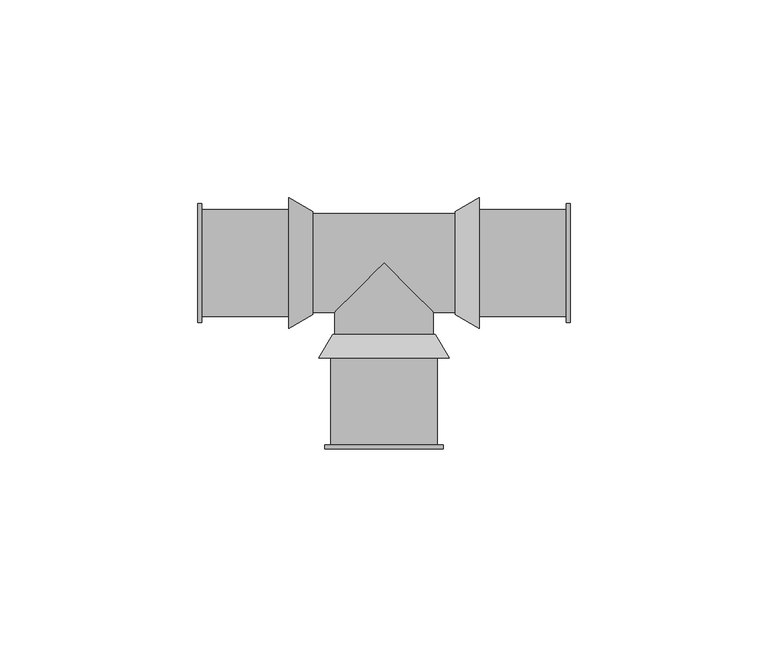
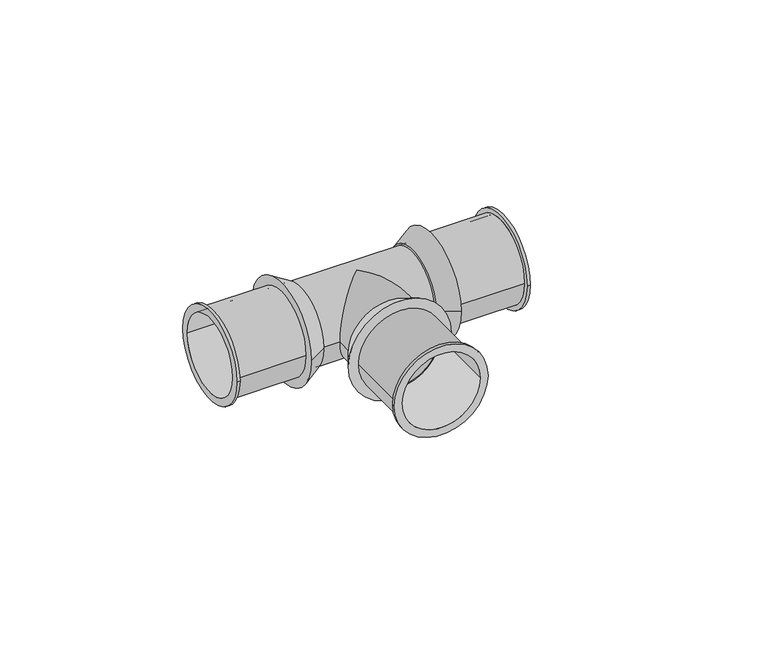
"""IFC4 building model written with IfcOpenShell, lengths in millimetres: pipe fitting geometry, SuperPipe_Tee_SPressPlus : SuperPipe_Tee_SPressPlus."""

from ifc_helpers import new_model, si_unit, point, frame, origin, origin_2d, place, context, project, spatial, polyline, circle_curve, ellipse_curve, trimmed, segment, composite_curve, outline, extrude, source, transform, mapped, element, save
from ifc_brep_helpers import plane_surface, cylinder_surface, revolved_surface, advanced_brep


def pipe_fitting_b1de520c(model_context):
    return source(origin(), model_context, "Body", "SolidModel", [
        advanced_brep(
        [(-47.0, -15.0, 0.0), (-47.0, 15.0, 0.0), (-47.0, -12.5, 0.0), (-47.0, 12.5, 0.0), (-24.0, -13.5, 0.0), (-24.0, 13.5, 0.0), (-24.0, -12.5, 0.0), (-24.0, 12.5, 0.0), (-46.0, -12.5, 0.0), (-46.0, 12.5, 0.0), (-46.0, 13.5, 0.0), (-46.0, -13.5, 0.0), (-46.0, -15.0, 0.0), (-46.0, 15.0, 0.0)],
        [
            (0, 1, circle_curve(frame((-47.0, 0.0, 0.0), z_axis=(-1.0, 0.0, 0.0), x_axis=(0.0, 1.0, 0.0)), 15.0)),
            (1, 0, circle_curve(frame((-47.0, 0.0, 0.0), z_axis=(-1.0, 0.0, 0.0), x_axis=(0.0, 1.0, 0.0)), 15.0)),
            (2, 3, circle_curve(frame((-47.0, 0.0, 0.0), z_axis=(1.0, 0.0, 0.0), x_axis=(0.0, 1.0, 0.0)), 12.5)),
            (3, 2, circle_curve(frame((-47.0, 0.0, 0.0), z_axis=(1.0, 0.0, 0.0), x_axis=(0.0, 1.0, 0.0)), 12.5)),
            (4, 5, circle_curve(frame((-24.0, 0.0, 0.0), z_axis=(1.0, 0.0, 0.0), x_axis=(0.0, 1.0, 0.0)), 13.5)),
            (5, 4, circle_curve(frame((-24.0, 0.0, 0.0), z_axis=(1.0, 0.0, 0.0), x_axis=(0.0, 1.0, 0.0)), 13.5)),
            (6, 7, circle_curve(frame((-24.0, 0.0, 0.0), z_axis=(-1.0, 0.0, 0.0), x_axis=(0.0, 1.0, 0.0)), 12.5)),
            (7, 6, circle_curve(frame((-24.0, 0.0, 0.0), z_axis=(-1.0, 0.0, 0.0), x_axis=(0.0, 1.0, 0.0)), 12.5)),
            (2, 8),
            (8, 6),
            (7, 9),
            (9, 3),
            (5, 10),
            (10, 11, circle_curve(frame((-46.0, 0.0, 0.0), z_axis=(1.0, 0.0, 0.0), x_axis=(0.0, 1.0, 0.0)), 13.5)),
            (11, 4),
            (11, 10, circle_curve(frame((-46.0, 0.0, 0.0), z_axis=(1.0, 0.0, 0.0), x_axis=(0.0, 1.0, 0.0)), 13.5)),
            (12, 13, circle_curve(frame((-46.0, 0.0, 0.0), z_axis=(1.0, 0.0, 0.0), x_axis=(0.0, 1.0, 0.0)), 15.0)),
            (13, 12, circle_curve(frame((-46.0, 0.0, 0.0), z_axis=(1.0, 0.0, 0.0), x_axis=(0.0, 1.0, 0.0)), 15.0)),
            (0, 12),
            (13, 1),
        ],
        [
            plane_surface(frame((-47.0, 0.0, 0.0), z_axis=(-1.0, 0.0, 0.0), x_axis=(0.0, 0.0, 1.0))),
            plane_surface(frame((-24.0, 0.0, 0.0), z_axis=(1.0, 0.0, 0.0), x_axis=(0.0, 0.0, 1.0))),
            revolved_surface(polyline([(-24.0, 12.5, 0.0), (-47.0, 12.5, 0.0)]), (-47.0, 0.0, 0.0), (1.0, 0.0, 0.0)),
            cylinder_surface(frame((-47.0, 0.0, 0.0), z_axis=(-1.0, 0.0, 0.0), x_axis=(0.0, 1.0, 0.0)), 13.5),
            plane_surface(frame((-46.0, 0.0, 0.0), z_axis=(1.0, 0.0, 0.0), x_axis=(0.0, 0.0, 1.0))),
            cylinder_surface(frame((-47.0, 0.0, 0.0), z_axis=(-1.0, 0.0, 0.0), x_axis=(0.0, 1.0, 0.0)), 15.0),
        ],
        [
            (0, [[1, 2], [3, 4]]),
            (1, [[5, 6], [7, 8]]),
            (2, [[-3, 9, 10, -8, 11, 12]]),
            (2, [[-4, -12, -11, -7, -10, -9]]),
            (3, [[-6, 13, 14, 15]]),
            (3, [[-5, -15, 16, -13]]),
            (4, [[17, 18], [-14, -16]]),
            (5, [[-1, 19, -18, 20]]),
            (5, [[-2, -20, -17, -19]]),
        ],
    ),
        advanced_brep(
        [(24.0, -13.5, 0.0), (24.0, 13.5, 0.0), (24.0, -12.5, 0.0), (24.0, 12.5, 0.0), (47.0, -15.0, 0.0), (47.0, 15.0, 0.0), (47.0, -12.5, 0.0), (47.0, 12.5, 0.0), (46.0, -13.5, 0.0), (46.0, 13.5, 0.0), (46.0, -12.5, 0.0), (46.0, 12.5, 0.0), (46.0, -15.0, 0.0), (46.0, 15.0, 0.0)],
        [
            (0, 1, circle_curve(frame((24.0, 0.0, 0.0), z_axis=(-1.0, 0.0, 0.0), x_axis=(0.0, 1.0, 0.0)), 13.5)),
            (1, 0, circle_curve(frame((24.0, 0.0, 0.0), z_axis=(-1.0, 0.0, 0.0), x_axis=(0.0, 1.0, 0.0)), 13.5)),
            (2, 3, circle_curve(frame((24.0, 0.0, 0.0), z_axis=(1.0, 0.0, 0.0), x_axis=(0.0, 1.0, 0.0)), 12.5)),
            (3, 2, circle_curve(frame((24.0, 0.0, 0.0), z_axis=(1.0, 0.0, 0.0), x_axis=(0.0, 1.0, 0.0)), 12.5)),
            (4, 5, circle_curve(frame((47.0, 0.0, 0.0), z_axis=(1.0, 0.0, 0.0), x_axis=(0.0, 1.0, 0.0)), 15.0)),
            (5, 4, circle_curve(frame((47.0, 0.0, 0.0), z_axis=(1.0, 0.0, 0.0), x_axis=(0.0, 1.0, 0.0)), 15.0)),
            (6, 7, circle_curve(frame((47.0, 0.0, 0.0), z_axis=(-1.0, 0.0, 0.0), x_axis=(0.0, 1.0, 0.0)), 12.5)),
            (7, 6, circle_curve(frame((47.0, 0.0, 0.0), z_axis=(-1.0, 0.0, 0.0), x_axis=(0.0, 1.0, 0.0)), 12.5)),
            (0, 8),
            (8, 9, circle_curve(frame((46.0, 0.0, 0.0), z_axis=(-1.0, 0.0, 0.0), x_axis=(0.0, 1.0, 0.0)), 13.5)),
            (9, 1),
            (9, 8, circle_curve(frame((46.0, 0.0, 0.0), z_axis=(-1.0, 0.0, 0.0), x_axis=(0.0, 1.0, 0.0)), 13.5)),
            (2, 10),
            (10, 6),
            (7, 11),
            (11, 3),
            (12, 13, circle_curve(frame((46.0, 0.0, 0.0), z_axis=(-1.0, 0.0, 0.0), x_axis=(0.0, 1.0, 0.0)), 15.0)),
            (13, 12, circle_curve(frame((46.0, 0.0, 0.0), z_axis=(-1.0, 0.0, 0.0), x_axis=(0.0, 1.0, 0.0)), 15.0)),
            (12, 4),
            (5, 13),
        ],
        [
            plane_surface(frame((24.0, 0.0, 0.0), z_axis=(-1.0, 0.0, 0.0), x_axis=(0.0, 0.0, 1.0))),
            plane_surface(frame((47.0, 0.0, 0.0), z_axis=(1.0, 0.0, 0.0), x_axis=(0.0, 0.0, 1.0))),
            cylinder_surface(frame((24.0, 0.0, 0.0), z_axis=(-1.0, 0.0, 0.0), x_axis=(0.0, 1.0, 0.0)), 13.5),
            revolved_surface(polyline([(47.0, 12.5, 0.0), (24.0, 12.5, 0.0)]), (24.0, 0.0, 0.0), (1.0, 0.0, 0.0)),
            plane_surface(frame((46.0, 0.0, 0.0), z_axis=(-1.0, 0.0, 0.0), x_axis=(0.0, 0.0, 1.0))),
            cylinder_surface(frame((46.0, 0.0, 0.0), z_axis=(-1.0, 0.0, 0.0), x_axis=(0.0, 1.0, 0.0)), 15.0),
        ],
        [
            (0, [[1, 2], [3, 4]]),
            (1, [[5, 6], [7, 8]]),
            (2, [[-1, 9, 10, 11]]),
            (2, [[-2, -11, 12, -9]]),
            (3, [[-3, 13, 14, -8, 15, 16]]),
            (3, [[-4, -16, -15, -7, -14, -13]]),
            (4, [[17, 18], [-10, -12]]),
            (5, [[-17, 19, -6, 20]]),
            (5, [[-18, -20, -5, -19]]),
        ],
    ),
        advanced_brep(
        [(-16.5, -24.0, 0.0), (16.5, -24.0, 0.0), (-12.5, -24.0, 0.0), (12.5, -24.0, 0.0), (-13.0, -18.0, 0.0), (13.0, -18.0, 0.0), (-12.5, -19.0, 0.0), (12.5, -19.0, 0.0)],
        [
            (0, 1, circle_curve(frame((0.0, -24.0, 0.0), z_axis=(0.0, -1.0, 0.0), x_axis=(-1.0, 0.0, 0.0)), 16.5)),
            (1, 0, circle_curve(frame((0.0, -24.0, 0.0), z_axis=(0.0, -1.0, 0.0), x_axis=(1.0, 0.0, 0.0)), 16.5)),
            (2, 3, circle_curve(frame((0.0, -24.0, 0.0), z_axis=(0.0, 1.0, 0.0), x_axis=(1.0, 0.0, 0.0)), 12.5)),
            (3, 2, circle_curve(frame((0.0, -24.0, 0.0), z_axis=(0.0, 1.0, 0.0), x_axis=(1.0, 0.0, 0.0)), 12.5)),
            (4, 5, circle_curve(frame((0.0, -18.0, 0.0), z_axis=(0.0, 1.0, 0.0), x_axis=(1.0, 0.0, 0.0)), 13.0)),
            (5, 4, circle_curve(frame((0.0, -18.0, 0.0), z_axis=(0.0, 1.0, 0.0), x_axis=(-1.0, 0.0, 0.0)), 13.0)),
            (0, 4),
            (5, 1),
            (6, 7, circle_curve(frame((0.0, -19.0, 0.0), z_axis=(0.0, -1.0, 0.0), x_axis=(1.0, 0.0, 0.0)), 12.5)),
            (7, 6, circle_curve(frame((0.0, -19.0, 0.0), z_axis=(0.0, -1.0, 0.0), x_axis=(1.0, 0.0, 0.0)), 12.5)),
            (7, 3),
            (2, 6),
        ],
        [
            plane_surface(frame((0.0, -24.0, 0.0), z_axis=(0.0, -1.0, 0.0), x_axis=(0.0, 0.0, -1.0))),
            plane_surface(frame((0.0, -18.0, 0.0), z_axis=(0.0, 1.0, 0.0), x_axis=(0.0, 0.0, -1.0))),
            revolved_surface(polyline([(13.000000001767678, -18.0, 0.0), (16.5, -24.0, 0.0)]), (0.0, 4.2857143, 0.0), (0.0, -1.0, 0.0)),
            revolved_surface(polyline([(-13.000000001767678, -18.0, 0.0), (-16.5, -24.0, 0.0)]), (0.0, 4.2857143, 0.0), (0.0, -1.0, 0.0)),
            plane_surface(frame((0.0, -19.0, 0.0), z_axis=(0.0, -1.0, 0.0), x_axis=(0.0, 0.0, 1.0))),
            revolved_surface(polyline([(12.5, -19.0, 0.0), (12.5, -24.0, 0.0)]), (0.0, -19.0, 0.0), (0.0, 1.0, 0.0)),
        ],
        [
            (0, [[1, 2], [3, 4]]),
            (1, [[5, 6]]),
            (2, [[-1, 7, -6, 8]]),
            (3, [[-2, -8, -5, -7]]),
            (4, [[9, 10]]),
            (5, [[-10, 11, -3, 12]]),
            (5, [[-9, -12, -4, -11]]),
        ],
    ),
        advanced_brep(
        [(24.0, -16.5, 0.0), (24.0, 16.5, 0.0), (24.0, 12.5, 0.0), (24.0, -12.5, 0.0), (18.0, -13.0, 0.0), (18.0, 13.0, 0.0), (19.0, -12.5, 0.0), (19.0, 12.5, 0.0)],
        [
            (0, 1, circle_curve(frame((24.0, 0.0, 0.0), z_axis=(1.0, 0.0, 0.0), x_axis=(0.0, -1.0, 0.0)), 16.5)),
            (1, 0, circle_curve(frame((24.0, 0.0, 0.0), z_axis=(1.0, 0.0, 0.0), x_axis=(0.0, 1.0, 0.0)), 16.5)),
            (2, 3, circle_curve(frame((24.0, 0.0, 0.0), z_axis=(-1.0, 0.0, 0.0), x_axis=(0.0, 1.0, 0.0)), 12.5)),
            (3, 2, circle_curve(frame((24.0, 0.0, 0.0), z_axis=(-1.0, 0.0, 0.0), x_axis=(0.0, 1.0, 0.0)), 12.5)),
            (4, 5, circle_curve(frame((18.0, 0.0, 0.0), z_axis=(-1.0, 0.0, 0.0), x_axis=(0.0, 1.0, 0.0)), 13.0)),
            (5, 4, circle_curve(frame((18.0, 0.0, 0.0), z_axis=(-1.0, 0.0, 0.0), x_axis=(0.0, -1.0, 0.0)), 13.0)),
            (0, 4),
            (5, 1),
            (6, 7, circle_curve(frame((19.0, 0.0, 0.0), z_axis=(1.0, 0.0, 0.0), x_axis=(0.0, 1.0, 0.0)), 12.5)),
            (7, 6, circle_curve(frame((19.0, 0.0, 0.0), z_axis=(1.0, 0.0, 0.0), x_axis=(0.0, 1.0, 0.0)), 12.5)),
            (6, 3),
            (2, 7),
        ],
        [
            plane_surface(frame((24.0, 0.0, 0.0), z_axis=(1.0, 0.0, 0.0), x_axis=(0.0, 0.0, -1.0))),
            plane_surface(frame((18.0, 0.0, 0.0), z_axis=(-1.0, 0.0, 0.0), x_axis=(0.0, 0.0, -1.0))),
            revolved_surface(polyline([(18.0, 13.000000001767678, 0.0), (24.0, 16.5, 0.0)]), (-4.2857143, 0.0, 0.0), (1.0, 0.0, 0.0)),
            revolved_surface(polyline([(18.0, -13.000000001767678, 0.0), (24.0, -16.5, 0.0)]), (-4.2857143, 0.0, 0.0), (1.0, 0.0, 0.0)),
            plane_surface(frame((19.0, 12.5, 0.0), z_axis=(1.0, 0.0, 0.0), x_axis=(0.0, 0.0, -1.0))),
            revolved_surface(polyline([(24.0, 12.5, 0.0), (19.0, 12.5, 0.0)]), (19.0, 0.0, 0.0), (1.0, 0.0, 0.0)),
        ],
        [
            (0, [[1, 2], [3, 4]]),
            (1, [[5, 6]]),
            (2, [[-1, 7, -6, 8]]),
            (3, [[-2, -8, -5, -7]]),
            (4, [[9, 10]]),
            (5, [[-9, 11, -3, 12]]),
            (5, [[-10, -12, -4, -11]]),
        ],
    ),
        advanced_brep(
        [(-18.0, -13.0, 0.0), (-18.0, 13.0, 0.0), (-24.0, -16.5, 0.0), (-24.0, 16.5, 0.0), (-24.0, -12.5, 0.0), (-24.0, 12.5, 0.0), (-19.0, -12.5, 0.0), (-19.0, 12.5, 0.0)],
        [
            (0, 1, circle_curve(frame((-18.0, 0.0, 0.0), z_axis=(1.0, 0.0, 0.0), x_axis=(0.0, -1.0, 0.0)), 13.0)),
            (1, 0, circle_curve(frame((-18.0, 0.0, 0.0), z_axis=(1.0, 0.0, 0.0), x_axis=(0.0, 1.0, 0.0)), 13.0)),
            (2, 3, circle_curve(frame((-24.0, 0.0, 0.0), z_axis=(-1.0, 0.0, 0.0), x_axis=(0.0, 1.0, 0.0)), 16.5)),
            (3, 2, circle_curve(frame((-24.0, 0.0, 0.0), z_axis=(-1.0, 0.0, 0.0), x_axis=(0.0, -1.0, 0.0)), 16.5)),
            (4, 5, circle_curve(frame((-24.0, 0.0, 0.0), z_axis=(1.0, 0.0, 0.0), x_axis=(0.0, 1.0, 0.0)), 12.5)),
            (5, 4, circle_curve(frame((-24.0, 0.0, 0.0), z_axis=(1.0, 0.0, 0.0), x_axis=(0.0, 1.0, 0.0)), 12.5)),
            (0, 2),
            (3, 1),
            (6, 7, circle_curve(frame((-19.0, 0.0, 0.0), z_axis=(-1.0, 0.0, 0.0), x_axis=(0.0, 1.0, 0.0)), 12.5)),
            (7, 6, circle_curve(frame((-19.0, 0.0, 0.0), z_axis=(-1.0, 0.0, 0.0), x_axis=(0.0, 1.0, 0.0)), 12.5)),
            (7, 5),
            (4, 6),
        ],
        [
            plane_surface(frame((-18.0, 0.0, 0.0), z_axis=(1.0, 0.0, 0.0), x_axis=(0.0, 0.0, -1.0))),
            plane_surface(frame((-24.0, 0.0, 0.0), z_axis=(-1.0, 0.0, 0.0), x_axis=(0.0, 0.0, -1.0))),
            revolved_surface(polyline([(-18.0, -13.000000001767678, 0.0), (-24.0, -16.5, 0.0)]), (4.2857143, 0.0, 0.0), (-1.0, 0.0, 0.0)),
            revolved_surface(polyline([(-18.0, 13.000000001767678, 0.0), (-24.0, 16.5, 0.0)]), (4.2857143, 0.0, 0.0), (-1.0, 0.0, 0.0)),
            plane_surface(frame((-19.0, 12.5, 0.0), z_axis=(-1.0, 0.0, 0.0), x_axis=(0.0, 0.0, 1.0))),
            revolved_surface(polyline([(-19.0, 12.5, 0.0), (-24.0, 12.5, 0.0)]), (-24.0, 0.0, 0.0), (1.0, 0.0, 0.0)),
        ],
        [
            (0, [[1, 2]]),
            (1, [[3, 4], [5, 6]]),
            (2, [[-1, 7, -4, 8]]),
            (3, [[-2, -8, -3, -7]]),
            (4, [[9, 10]]),
            (5, [[-10, 11, -5, 12]]),
            (5, [[-9, -12, -6, -11]]),
        ],
    ),
        advanced_brep(
        [(-12.5, -18.0, 0.0), (12.5, -18.0, 0.0), (12.5, -12.5, 0.0), (0.0, 0.0, 12.5), (-12.5, -12.5, 0.0), (0.0, 0.0, -12.5)],
        [
            (0, 1, circle_curve(frame((0.0, -18.0, 0.0), z_axis=(0.0, -1.0, 0.0), x_axis=(1.0, 0.0, 0.0)), 12.5)),
            (1, 0, circle_curve(frame((0.0, -18.0, 0.0), z_axis=(0.0, -1.0, 0.0), x_axis=(1.0, 0.0, 0.0)), 12.5)),
            (1, 2),
            (2, 3, ellipse_curve(frame((0.0, 0.0, 0.0), z_axis=(-0.7071067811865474, -0.7071067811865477, 0.0), x_axis=(-0.7071067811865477, 0.7071067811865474, 0.0)), 17.6776695, 12.5)),
            (3, 4, ellipse_curve(frame((0.0, 0.0, 0.0), z_axis=(0.7071067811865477, -0.7071067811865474, 0.0), x_axis=(0.7071067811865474, 0.7071067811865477, 0.0)), 17.6776695, 12.5)),
            (4, 0),
            (4, 5, ellipse_curve(frame((0.0, 0.0, 0.0), z_axis=(0.7071067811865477, -0.7071067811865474, 0.0), x_axis=(0.7071067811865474, 0.7071067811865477, 0.0)), 17.6776695, 12.5)),
            (5, 2, ellipse_curve(frame((0.0, 0.0, 0.0), z_axis=(-0.7071067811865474, -0.7071067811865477, 0.0), x_axis=(-0.7071067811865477, 0.7071067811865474, 0.0)), 17.6776695, 12.5)),
            (2, 4),
        ],
        [
            plane_surface(frame((0.0, -18.0, 0.0), z_axis=(0.0, -1.0, 0.0), x_axis=(0.0, 0.0, 1.0))),
            cylinder_surface(frame((0.0, 0.0, 0.0), z_axis=(0.0, 1.0, 0.0), x_axis=(1.0, 0.0, 0.0)), 12.5),
            revolved_surface(polyline([(-12.5, 12.5, 0.0), (12.5, 12.5, 0.0)]), (-103.8358145, 0.0, 0.0), (-1.0, 0.0, 0.0)),
        ],
        [
            (0, [[1, 2]]),
            (1, [[-2, 3, 4, 5, 6]]),
            (1, [[-1, -6, 7, 8, -3]]),
            (2, [[9, -5, -4]]),
            (2, [[-9, -8, -7]]),
        ],
    ),
        advanced_brep(
        [(-13.5, -24.0, 0.0), (13.5, -24.0, 0.0), (-12.5, -24.0, 0.0), (12.5, -24.0, 0.0), (-15.0, -47.0, 0.0), (15.0, -47.0, 0.0), (-12.5, -47.0, 0.0), (12.5, -47.0, 0.0), (-13.5, -46.0, 0.0), (13.5, -46.0, 0.0), (-15.0, -46.0, 0.0), (15.0, -46.0, 0.0)],
        [
            (0, 1, circle_curve(frame((0.0, -24.0, 0.0), z_axis=(0.0, 1.0, 0.0), x_axis=(1.0, 0.0, 0.0)), 13.5)),
            (1, 0, circle_curve(frame((0.0, -24.0, 0.0), z_axis=(0.0, 1.0, 0.0), x_axis=(1.0, 0.0, 0.0)), 13.5)),
            (2, 3, circle_curve(frame((0.0, -24.0, 0.0), z_axis=(0.0, -1.0, 0.0), x_axis=(1.0, 0.0, 0.0)), 12.5)),
            (3, 2, circle_curve(frame((0.0, -24.0, 0.0), z_axis=(0.0, -1.0, 0.0), x_axis=(1.0, 0.0, 0.0)), 12.5)),
            (4, 5, circle_curve(frame((0.0, -47.0, 0.0), z_axis=(0.0, -1.0, 0.0), x_axis=(1.0, 0.0, 0.0)), 15.0)),
            (5, 4, circle_curve(frame((0.0, -47.0, 0.0), z_axis=(0.0, -1.0, 0.0), x_axis=(1.0, 0.0, 0.0)), 15.0)),
            (6, 7, circle_curve(frame((0.0, -47.0, 0.0), z_axis=(0.0, 1.0, 0.0), x_axis=(1.0, 0.0, 0.0)), 12.5)),
            (7, 6, circle_curve(frame((0.0, -47.0, 0.0), z_axis=(0.0, 1.0, 0.0), x_axis=(1.0, 0.0, 0.0)), 12.5)),
            (2, 6),
            (7, 3),
            (0, 8),
            (8, 9, circle_curve(frame((0.0, -46.0, 0.0), z_axis=(0.0, 1.0, 0.0), x_axis=(1.0, 0.0, 0.0)), 13.5)),
            (9, 1),
            (9, 8, circle_curve(frame((0.0, -46.0, 0.0), z_axis=(0.0, 1.0, 0.0), x_axis=(1.0, 0.0, 0.0)), 13.5)),
            (10, 11, circle_curve(frame((0.0, -46.0, 0.0), z_axis=(0.0, 1.0, 0.0), x_axis=(1.0, 0.0, 0.0)), 15.0)),
            (11, 10, circle_curve(frame((0.0, -46.0, 0.0), z_axis=(0.0, 1.0, 0.0), x_axis=(1.0, 0.0, 0.0)), 15.0)),
            (10, 4),
            (5, 11),
        ],
        [
            plane_surface(frame((0.0, -24.0, 0.0), z_axis=(0.0, 1.0, 0.0), x_axis=(0.0, 0.0, 1.0))),
            plane_surface(frame((0.0, -47.0, 0.0), z_axis=(0.0, -1.0, 0.0), x_axis=(0.0, 0.0, 1.0))),
            revolved_surface(polyline([(12.5, -47.0, 0.0), (12.5, -24.0, 0.0)]), (0.0, -24.0, 0.0), (0.0, -1.0, 0.0)),
            cylinder_surface(frame((0.0, -24.0, 0.0), z_axis=(0.0, 1.0, 0.0), x_axis=(1.0, 0.0, 0.0)), 13.5),
            plane_surface(frame((0.0, -46.0, 0.0), z_axis=(0.0, 1.0, 0.0), x_axis=(0.0, 0.0, 1.0))),
            cylinder_surface(frame((0.0, -46.0, 0.0), z_axis=(0.0, 1.0, 0.0), x_axis=(1.0, 0.0, 0.0)), 15.0),
        ],
        [
            (0, [[1, 2], [3, 4]]),
            (1, [[5, 6], [7, 8]]),
            (2, [[-3, 9, -8, 10]]),
            (2, [[-4, -10, -7, -9]]),
            (3, [[-1, 11, 12, 13]]),
            (3, [[-2, -13, 14, -11]]),
            (4, [[15, 16], [-12, -14]]),
            (5, [[-15, 17, -6, 18]]),
            (5, [[-16, -18, -5, -17]]),
        ],
    ),
        extrude(outline(composite_curve([segment(trimmed(circle_curve(origin_2d(), 12.5), [point((-12.5, 0.0))], [point((12.5, 0.0))], False, "CARTESIAN"), True, "CONTINUOUS"), segment(trimmed(circle_curve(origin_2d(), 12.5), [point((12.5, 0.0))], [point((-12.5, 0.0))], False, "CARTESIAN"), True, "CONTINUOUS")], self_intersect=False)), frame((-18.0, 0.0, 0.0), z_axis=(1.0, 0.0, 0.0), x_axis=(0.0, 1.0, 0.0)), (0.0, 0.0, 1.0), 36.0),
    ])


if __name__ == "__main__":
    model = new_model("IFC4")
    model_context = context("Model", 3, world=origin())
    ifc_project = project(units=[si_unit("LENGTHUNIT", "METRE", prefix="MILLI")], contexts=[model_context])
    site = spatial("IfcSite", under=ifc_project)
    building = spatial("IfcBuilding", under=site)
    placement = place(None, origin())
    pipe_fitting_shape = pipe_fitting_b1de520c(model_context)
    element("IfcPipeFitting", 1, ObjectType="SuperPipe_Tee_SPressPlus : SuperPipe_Tee_SPressPlus", at=placement, inside=building, context=model_context, shape_type="MappedRepresentation", body=[
        mapped(pipe_fitting_shape, transform((0.0, 0.0, 0.0), x_axis=(1.0, 0.0, 0.0), y_axis=(0.0, 1.0, 0.0), z_axis=(0.0, 0.0, 1.0))),
    ])
    save(model, "model.ifc")
